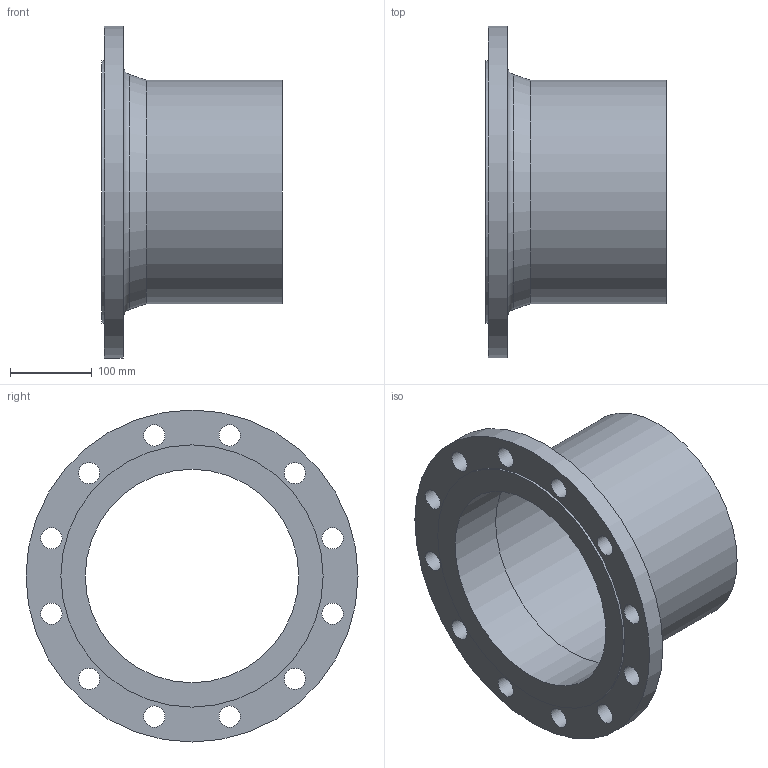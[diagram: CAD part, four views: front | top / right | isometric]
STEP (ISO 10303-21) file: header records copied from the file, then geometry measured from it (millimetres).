
FILE_DESCRIPTION(/* description */ (''),/* implementation_level */ '2;1');
FILE_NAME(/* name */ 'C:\Users\LK_9K\Desktop\STRAUB FLANSCHADAPTER DN250.stp',/* time_stamp */ '2021-04-12T09:27:58+02:00',/* author */ ('LK_9K'),/* organization */ (''),/* preprocessor_version */ 'ST-DEVELOPER v18.1',/* originating_system */ 'Autodesk Inventor 2020',/* authorisation */ '');
FILE_SCHEMA (('AUTOMOTIVE_DESIGN { 1 0 10303 214 3 1 1 }'));
Length unit declared in the file: millimetre
Products named in the file (1): Bauteil1
Bounding box: 220 x 405 x 405 mm (x, y, z)
Volume: 2416355.7 mm3; surface area: 534431.6 mm2
Topology: 1 solids, 1 shells, 24 faces, 78 edges, 59 vertices
Faces by surface type: cylinder 17, plane 5, torus 1, cone 1
Full cylindrical faces by diameter (mm): 26 x12, 260.4 x1, 267 x1, 273 x1, 320 x1, 405 x1
Entity records: 1023 total; most frequent: DIRECTION 188, CARTESIAN_POINT 162, ORIENTED_EDGE 156, AXIS2_PLACEMENT_3D 85, EDGE_CURVE 78, CIRCLE 60, VERTEX_POINT 59, EDGE_LOOP 53
